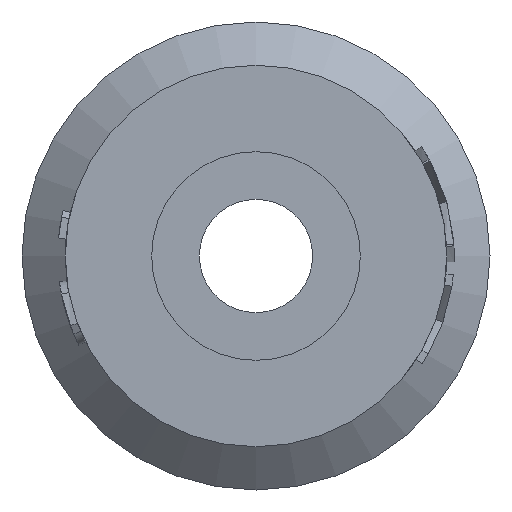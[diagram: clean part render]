
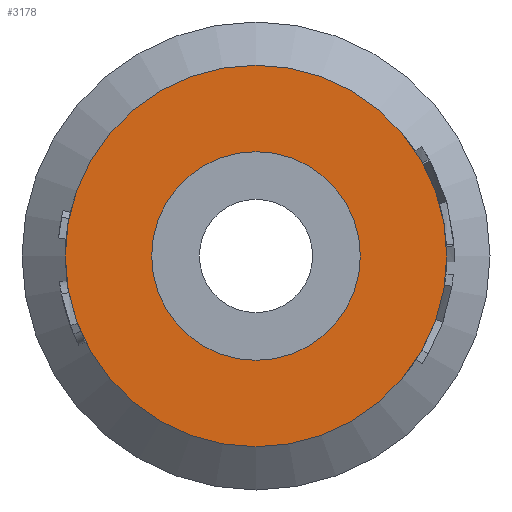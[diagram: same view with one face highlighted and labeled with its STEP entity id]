
A CAD part, front view. The second image highlights one B-rep face of the part: STEP entity #3178.
In plain terms, the highlighted planar face has unit normal (0, -1, 0).
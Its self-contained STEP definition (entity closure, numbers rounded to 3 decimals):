
#465 = VERTEX_POINT ( 'NONE', #3391 ) ;
#532 = ORIENTED_EDGE ( 'NONE', *, *, #4626, .F. ) ;
#788 = DIRECTION ( 'NONE',  ( -1., 0., 0. ) ) ;
#881 = DIRECTION ( 'NONE',  ( 0., 1., 0. ) ) ;
#1009 = ORIENTED_EDGE ( 'NONE', *, *, #3561, .T. ) ;
#1167 = DIRECTION ( 'NONE',  ( 0., 1., 0. ) ) ;
#1291 = CARTESIAN_POINT ( 'NONE',  ( 329.087, -202.281, 0. ) ) ;
#1584 = AXIS2_PLACEMENT_3D ( 'NONE', #1291, #881, #2594 ) ;
#1682 = AXIS2_PLACEMENT_3D ( 'NONE', #2866, #1167, #788 ) ;
#1725 = VERTEX_POINT ( 'NONE', #4318 ) ;
#1825 = FACE_BOUND ( 'NONE', #5537, .T. ) ;
#2294 = DIRECTION ( 'NONE',  ( 0., 1., 0. ) ) ;
#2524 = AXIS2_PLACEMENT_3D ( 'NONE', #3641, #2294, #5392 ) ;
#2582 = CIRCLE ( 'NONE', #1682, 3.5 ) ;
#2594 = DIRECTION ( 'NONE',  ( 0., 0., 1. ) ) ;
#2866 = CARTESIAN_POINT ( 'NONE',  ( 332.587, -202.281, 0. ) ) ;
#3178 = ADVANCED_FACE ( 'NONE', ( #3861, #1825 ), #5152, .F. ) ;
#3391 = CARTESIAN_POINT ( 'NONE',  ( 329.087, -202.281, 0. ) ) ;
#3507 = CIRCLE ( 'NONE', #2524, 6.4 ) ;
#3561 = EDGE_CURVE ( 'NONE', #465, #465, #2582, .T. ) ;
#3641 = CARTESIAN_POINT ( 'NONE',  ( 332.587, -202.281, 0. ) ) ;
#3861 = FACE_OUTER_BOUND ( 'NONE', #5283, .T. ) ;
#4318 = CARTESIAN_POINT ( 'NONE',  ( 326.187, -202.281, 0. ) ) ;
#4626 = EDGE_CURVE ( 'NONE', #1725, #1725, #3507, .T. ) ;
#5152 = PLANE ( 'NONE',  #1584 ) ;
#5283 = EDGE_LOOP ( 'NONE', ( #532 ) ) ;
#5392 = DIRECTION ( 'NONE',  ( -1., 0., 0. ) ) ;
#5537 = EDGE_LOOP ( 'NONE', ( #1009 ) ) ;
